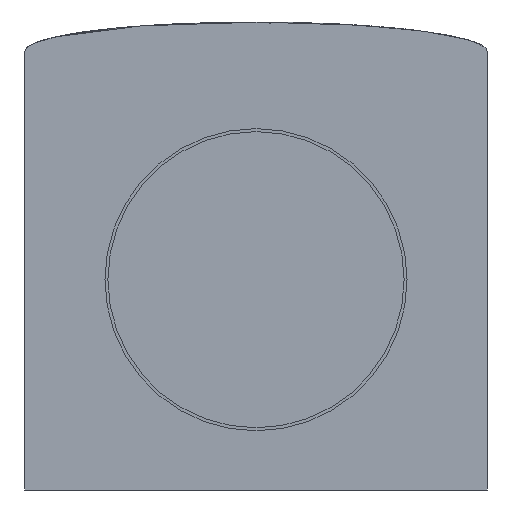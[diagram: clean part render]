
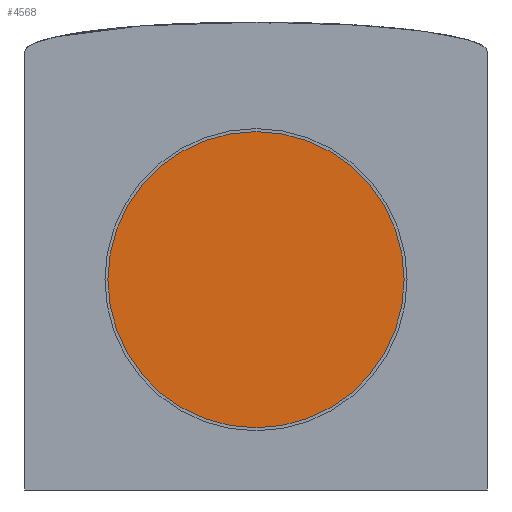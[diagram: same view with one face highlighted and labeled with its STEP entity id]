
A CAD part, front view. The second image highlights one B-rep face of the part: STEP entity #4568.
In plain terms, the highlighted planar face has unit normal (0, -1, 0).
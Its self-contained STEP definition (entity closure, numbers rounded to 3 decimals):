
#425 = EDGE_CURVE ( 'NONE', #8125, #8780, #8057, .T. ) ;
#1524 = ORIENTED_EDGE ( 'NONE', *, *, #425, .F. ) ;
#1800 = EDGE_CURVE ( 'NONE', #8780, #8125, #8622, .T. ) ;
#2223 = DIRECTION ( 'NONE',  ( 0., 1., 0. ) ) ;
#2312 = DIRECTION ( 'NONE',  ( 0., 0., 1. ) ) ;
#2573 = AXIS2_PLACEMENT_3D ( 'NONE', #8914, #4422, #2312 ) ;
#3534 = DIRECTION ( 'NONE',  ( 0., 0., 1. ) ) ;
#4321 = DIRECTION ( 'NONE',  ( 0., 0., 1. ) ) ;
#4422 = DIRECTION ( 'NONE',  ( 0., 1., 0. ) ) ;
#4568 = ADVANCED_FACE ( 'NONE', ( #7287 ), #5178, .F. ) ;
#5092 = CARTESIAN_POINT ( 'NONE',  ( 0., -24., 2. ) ) ;
#5178 = PLANE ( 'NONE',  #2573 ) ;
#5218 = AXIS2_PLACEMENT_3D ( 'NONE', #7924, #6554, #4321 ) ;
#6264 = ORIENTED_EDGE ( 'NONE', *, *, #1800, .F. ) ;
#6524 = EDGE_LOOP ( 'NONE', ( #1524, #6264 ) ) ;
#6554 = DIRECTION ( 'NONE',  ( 0., 1., 0. ) ) ;
#7287 = FACE_OUTER_BOUND ( 'NONE', #6524, .T. ) ;
#7418 = CARTESIAN_POINT ( 'NONE',  ( 0., -24., -8. ) ) ;
#7924 = CARTESIAN_POINT ( 'NONE',  ( 0., -24., 2. ) ) ;
#8028 = AXIS2_PLACEMENT_3D ( 'NONE', #5092, #2223, #3534 ) ;
#8057 = CIRCLE ( 'NONE', #5218, 10. ) ;
#8125 = VERTEX_POINT ( 'NONE', #8466 ) ;
#8466 = CARTESIAN_POINT ( 'NONE',  ( 0., -24., 12. ) ) ;
#8622 = CIRCLE ( 'NONE', #8028, 10. ) ;
#8780 = VERTEX_POINT ( 'NONE', #7418 ) ;
#8914 = CARTESIAN_POINT ( 'NONE',  ( 0., -24., 12. ) ) ;
